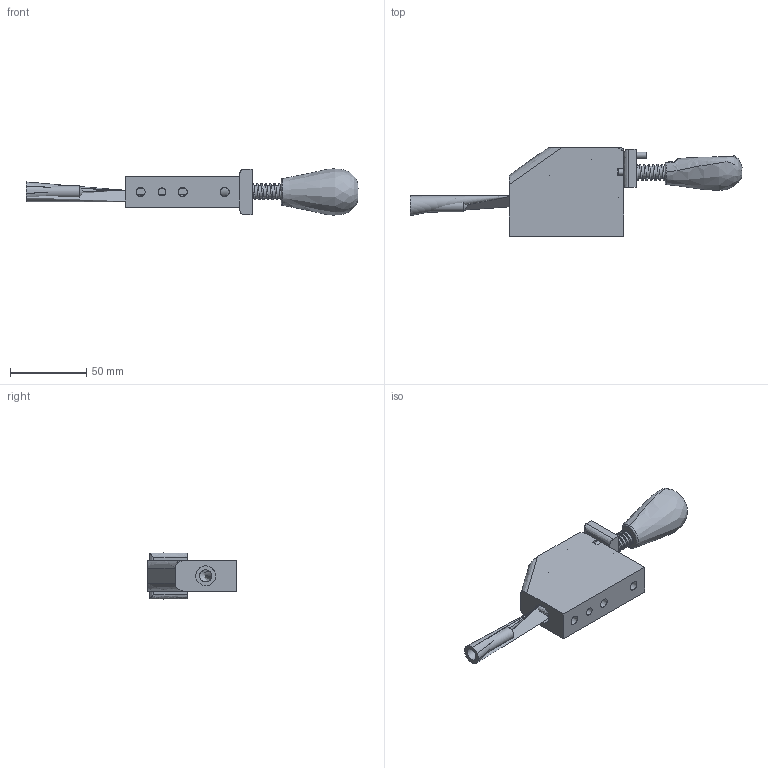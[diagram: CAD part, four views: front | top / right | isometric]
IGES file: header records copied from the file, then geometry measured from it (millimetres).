
Global section: file name: YSP-50ST-L-CLAMP; native system: Autodesk Inventor 2019; preprocessor: unknown; author: 桶田 勝弘,,  11,0; organization: 20180111.003651; date: 20240515.080343; units: millimetre
Bounding box: 217.24 x 58 x 30.18 mm (x, y, z)
Volume: 105377.9 mm3; surface area: 42533.1 mm2
Topology: 10 solids, 10 shells, 234 faces, 639 edges, 423 vertices
Faces by surface type: bspline 234
